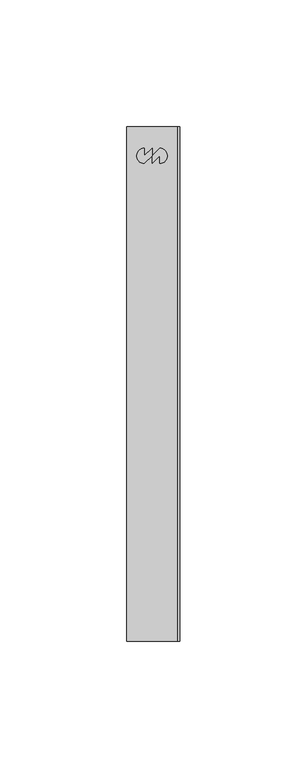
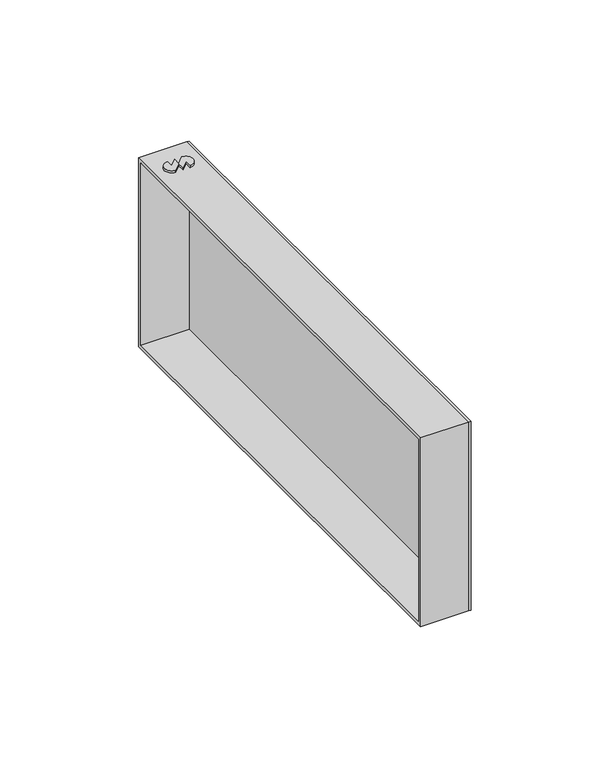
"""IFC4 building model written with IfcOpenShell, lengths in millimetres: duct fitting geometry, NLRS_57_DUF_UN_instortkanaal-rechthoekig-einddeksel_LT_velu : VIK Einddeksel rechthoekig."""

from ifc_helpers import new_model, si_unit, point, frame, frame_2d, origin, place, context, project, spatial, polyline, circle_curve, trimmed, segment, composite_curve, outline, extrude, source, transform, mapped, element, save


def duct_fitting_828d90e0(model_context):
    return source(origin(), model_context, "Body", "SweptSolid", [
        extrude(outline(composite_curve([segment(polyline([(-7.0, 87.0), (-7.0, 90.0), (-10.0, 87.0), (-10.0, 90.0), (-7.0, 93.0)]), True, "CONTINUOUS"), segment(trimmed(circle_curve(frame_2d((-7.0, 90.0)), 3.0), [point((-7.0, 93.0))], [point((-7.0, 87.0))], False, "CARTESIAN"), True, "CONTINUOUS")], self_intersect=False)), frame((0.0, 0.0, -42.5), z_axis=(0.0, 0.0, 1.0), x_axis=(1.0, 0.0, 0.0)), (0.0, 0.0, 1.0), 1.0),
        extrude(outline(composite_curve([segment(polyline([(-13.0, 93.0), (-13.0, 90.0), (-10.0, 93.0), (-10.0, 90.0), (-13.0, 87.0)]), True, "CONTINUOUS"), segment(trimmed(circle_curve(frame_2d((-13.0, 90.0)), 3.0), [point((-13.0, 87.0))], [point((-13.0, 93.0))], False, "CARTESIAN"), True, "CONTINUOUS")], self_intersect=False)), frame((0.0, 0.0, -42.5), z_axis=(0.0, 0.0, 1.0), x_axis=(1.0, 0.0, 0.0)), (0.0, 0.0, 1.0), 1.0),
        extrude(outline(composite_curve([segment(polyline([(-13.0, 93.0), (-13.0, 90.0), (-10.0, 93.0), (-10.0, 90.0), (-13.0, 87.0)]), True, "CONTINUOUS"), segment(trimmed(circle_curve(frame_2d((-13.0, 90.0)), 3.0), [point((-13.0, 87.0))], [point((-13.0, 93.0))], False, "CARTESIAN"), True, "CONTINUOUS")], self_intersect=False)), frame((0.0, 0.0, 41.5), z_axis=(0.0, 0.0, 1.0), x_axis=(1.0, 0.0, 0.0)), (0.0, 0.0, 1.0), 1.0),
        extrude(outline(composite_curve([segment(polyline([(-7.0, 87.0), (-7.0, 90.0), (-10.0, 87.0), (-10.0, 90.0), (-7.0, 93.0)]), True, "CONTINUOUS"), segment(trimmed(circle_curve(frame_2d((-7.0, 90.0)), 3.0), [point((-7.0, 93.0))], [point((-7.0, 87.0))], False, "CARTESIAN"), True, "CONTINUOUS")], self_intersect=False)), frame((0.0, 0.0, 41.5), z_axis=(0.0, 0.0, 1.0), x_axis=(1.0, 0.0, 0.0)), (0.0, 0.0, 1.0), 1.0),
        extrude(outline(polyline([(101.5, -41.5), (-101.5, -41.5), (-101.5, 41.5), (101.5, 41.5), (101.5, -41.5)]), holes=[polyline([(100.0, 40.0), (-100.0, 40.0), (-100.0, -40.0), (100.0, -40.0), (100.0, 40.0)])]), frame((-20.0, 0.0, 0.0), z_axis=(1.0, 0.0, 0.0), x_axis=(0.0, 1.0, 0.0)), (0.0, 0.0, 1.0), 20.0),
        extrude(outline(polyline([(1.0, 101.5), (1.0, -101.5), (0.0, -101.5), (0.0, 101.5), (1.0, 101.5)])), frame((0.0, 0.0, -41.5), z_axis=(0.0, 0.0, 1.0), x_axis=(1.0, 0.0, 0.0)), (0.0, 0.0, 1.0), 83.0),
    ])


if __name__ == "__main__":
    model = new_model("IFC4")
    model_context = context("Model", 3, world=origin())
    ifc_project = project(units=[si_unit("LENGTHUNIT", "METRE", prefix="MILLI")], contexts=[model_context])
    site = spatial("IfcSite", under=ifc_project)
    building = spatial("IfcBuilding", under=site)
    placement = place(None, origin())
    duct_fitting_shape = duct_fitting_828d90e0(model_context)
    element("IfcDuctFitting", 1, ObjectType="NLRS_57_DUF_UN_instortkanaal-rechthoekig-einddeksel_LT_velu : VIK Einddeksel rechthoekig", at=placement, inside=building, context=model_context, shape_type="MappedRepresentation", body=[
        mapped(duct_fitting_shape, transform((0.0, 0.0, 0.0), x_axis=(1.0, 0.0, 0.0), y_axis=(0.0, 1.0, 0.0), z_axis=(0.0, 0.0, 1.0))),
    ])
    save(model, "model.ifc")
